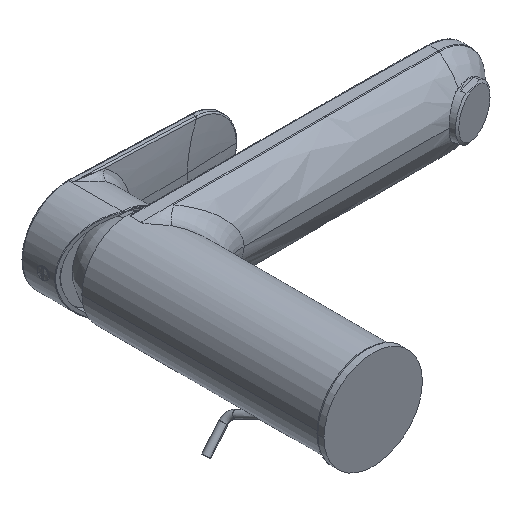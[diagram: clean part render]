
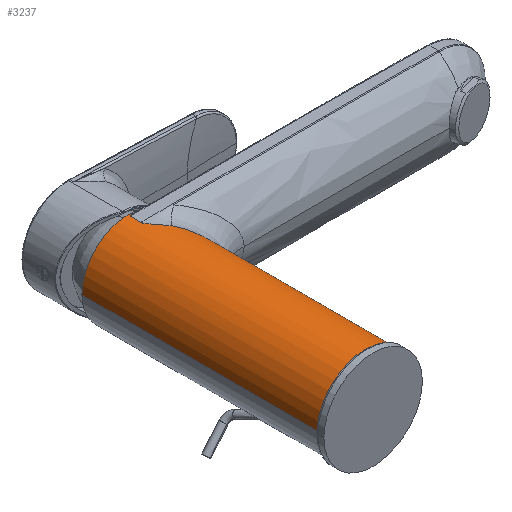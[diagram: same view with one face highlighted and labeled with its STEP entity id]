
A CAD part, isometric view. The second image highlights one B-rep face of the part: STEP entity #3237.
In plain terms, the highlighted cylindrical face has radius 22.5 mm (diameter 45 mm), a partial arc.
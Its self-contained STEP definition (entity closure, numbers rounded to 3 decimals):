
#49=DIRECTION('',(0.,1.,0.));
#50=VECTOR('',#49,81.431);
#51=CARTESIAN_POINT('',(22.5,0.,0.));
#52=LINE('',#51,#50);
#111=DIRECTION('',(0.,-1.,0.));
#112=VECTOR('',#111,115.54);
#113=CARTESIAN_POINT('',(-22.5,115.54,0.));
#114=LINE('',#113,#112);
#120=CARTESIAN_POINT('',(0.,0.,0.));
#121=DIRECTION('',(0.,-1.,0.));
#122=DIRECTION('',(1.,0.,0.));
#123=AXIS2_PLACEMENT_3D('',#120,#121,#122);
#125=CARTESIAN_POINT('',(2.817,115.54,22.323));
#126=CARTESIAN_POINT('',(2.698,115.504,22.338));
#127=CARTESIAN_POINT('',(2.47,115.433,22.365));
#128=CARTESIAN_POINT('',(2.155,115.333,22.397));
#129=CARTESIAN_POINT('',(1.865,115.24,22.423));
#130=CARTESIAN_POINT('',(1.598,115.152,22.444));
#131=CARTESIAN_POINT('',(1.352,115.07,22.46));
#132=CARTESIAN_POINT('',(1.125,114.993,22.472));
#133=CARTESIAN_POINT('',(0.915,114.921,22.482));
#134=CARTESIAN_POINT('',(0.721,114.854,22.489));
#135=CARTESIAN_POINT('',(0.546,114.788,22.494));
#136=CARTESIAN_POINT('',(0.381,114.738,22.497));
#137=CARTESIAN_POINT('',(0.224,114.698,22.499));
#138=CARTESIAN_POINT('',(0.1,114.626,22.5));
#139=CARTESIAN_POINT('',(0.031,114.576,22.5));
#140=CARTESIAN_POINT('',(0.,114.548,22.5));
#142=DIRECTION('',(0.,-1.,0.));
#143=VECTOR('',#142,5.273);
#144=CARTESIAN_POINT('',(0.,114.548,22.5));
#145=LINE('',#144,#143);
#146=CARTESIAN_POINT('',(2.911,105.135,22.311));
#147=CARTESIAN_POINT('',(3.5,104.635,22.234));
#148=CARTESIAN_POINT('',(4.616,103.691,22.041));
#149=CARTESIAN_POINT('',(6.116,102.501,21.669));
#150=CARTESIAN_POINT('',(6.972,101.754,21.397));
#151=CARTESIAN_POINT('',(7.367,101.401,21.26));
#153=CARTESIAN_POINT('',(7.367,101.401,21.26));
#154=CARTESIAN_POINT('',(7.5,101.276,21.213));
#155=CARTESIAN_POINT('',(7.767,101.025,21.119));
#156=CARTESIAN_POINT('',(8.297,100.519,20.917));
#157=CARTESIAN_POINT('',(9.209,99.632,20.543));
#158=CARTESIAN_POINT('',(10.471,98.349,19.938));
#159=CARTESIAN_POINT('',(11.911,96.764,19.112));
#160=CARTESIAN_POINT('',(13.263,95.096,18.2));
#161=CARTESIAN_POINT('',(14.543,93.412,17.194));
#162=CARTESIAN_POINT('',(15.756,91.746,16.091));
#163=CARTESIAN_POINT('',(16.898,90.12,14.888));
#164=CARTESIAN_POINT('',(17.96,88.569,13.588));
#165=CARTESIAN_POINT('',(18.772,87.348,12.427));
#166=CARTESIAN_POINT('',(19.378,86.414,11.446));
#167=CARTESIAN_POINT('',(19.938,85.532,10.454));
#168=CARTESIAN_POINT('',(20.581,84.497,9.151));
#169=CARTESIAN_POINT('',(21.253,83.409,7.462));
#170=CARTESIAN_POINT('',(21.798,82.533,5.679));
#171=CARTESIAN_POINT('',(22.2,81.897,3.824));
#172=CARTESIAN_POINT('',(22.446,81.515,1.921));
#173=CARTESIAN_POINT('',(22.499,81.432,0.64));
#174=CARTESIAN_POINT('',(22.5,81.431,0.));
#176=CARTESIAN_POINT('',(0.,115.54,0.));
#177=DIRECTION('',(0.,-1.,0.));
#178=DIRECTION('',(0.125,0.,0.992));
#179=AXIS2_PLACEMENT_3D('',#176,#177,#178);
#2192=CARTESIAN_POINT('',(22.5,81.431,0.));
#2209=CARTESIAN_POINT('',(2.911,105.135,22.311));
#2210=CARTESIAN_POINT('',(2.722,105.301,22.336));
#2211=CARTESIAN_POINT('',(2.363,105.623,22.378));
#2212=CARTESIAN_POINT('',(1.88,106.079,22.423));
#2213=CARTESIAN_POINT('',(1.451,106.511,22.454));
#2214=CARTESIAN_POINT('',(1.077,106.922,22.475));
#2215=CARTESIAN_POINT('',(0.754,107.314,22.488));
#2216=CARTESIAN_POINT('',(0.485,107.688,22.495));
#2217=CARTESIAN_POINT('',(0.271,108.046,22.499));
#2218=CARTESIAN_POINT('',(0.115,108.387,22.5));
#2219=CARTESIAN_POINT('',(0.021,108.709,22.5));
#2220=CARTESIAN_POINT('',(0.,108.906,22.5));
#2221=CARTESIAN_POINT('',(0.,109.,22.5));
#2223=CARTESIAN_POINT('',(0.,109.,22.5));
#2224=CARTESIAN_POINT('',(-0.003,109.03,
22.5));
#2225=CARTESIAN_POINT('',(-0.004,109.091,
22.5));
#2226=CARTESIAN_POINT('',(-0.01,109.183,
22.5));
#2227=CARTESIAN_POINT('',(-0.001,109.244,
22.5));
#2228=CARTESIAN_POINT('',(0.,109.276,
22.5));
#2882=VERTEX_POINT('',#2192);
#2883=VERTEX_POINT('',#153);
#2895=CARTESIAN_POINT('',(-22.5,115.54,0.));
#2896=VERTEX_POINT('',#2895);
#2897=CARTESIAN_POINT('',(2.817,115.54,22.323));
#2898=VERTEX_POINT('',#2897);
#2899=VERTEX_POINT('',#140);
#2900=CARTESIAN_POINT('',(0.,109.276,
22.5));
#2901=VERTEX_POINT('',#2900);
#2902=VERTEX_POINT('',#2223);
#2903=VERTEX_POINT('',#2209);
#2987=CARTESIAN_POINT('',(-22.5,0.,0.));
#2988=CARTESIAN_POINT('',(22.5,0.,0.));
#2989=VERTEX_POINT('',#2987);
#2990=VERTEX_POINT('',#2988);
#3213=CARTESIAN_POINT('',(0.,-4.5,0.));
#3214=DIRECTION('',(0.,-1.,0.));
#3215=DIRECTION('',(1.,0.,0.));
#3216=AXIS2_PLACEMENT_3D('',#3213,#3214,#3215);
#3217=CYLINDRICAL_SURFACE('',#3216,22.5);
#3218=ORIENTED_EDGE('',*,*,#3150,.T.);
#3219=ORIENTED_EDGE('',*,*,#3201,.F.);
#3221=ORIENTED_EDGE('',*,*,#3220,.F.);
#3223=ORIENTED_EDGE('',*,*,#3222,.T.);
#3225=ORIENTED_EDGE('',*,*,#3224,.T.);
#3227=ORIENTED_EDGE('',*,*,#3226,.F.);
#3229=ORIENTED_EDGE('',*,*,#3228,.F.);
#3231=ORIENTED_EDGE('',*,*,#3230,.T.);
#3233=ORIENTED_EDGE('',*,*,#3232,.T.);
#3234=ORIENTED_EDGE('',*,*,#3185,.F.);
#3235=EDGE_LOOP('',(#3218,#3219,#3221,#3223,#3225,#3227,#3229,#3231,#3233,
#3234));
#3236=FACE_OUTER_BOUND('',#3235,.F.);
#3237=ADVANCED_FACE('',(#3236),#3217,.T.);
#124=CIRCLE('',#123,22.5);
#141=B_SPLINE_CURVE_WITH_KNOTS('',3,(#125,#126,#127,#128,#129,#130,#131,#132,
#133,#134,#135,#136,#137,#138,#139,#140),.UNSPECIFIED.,.F.,.F.,(4,1,1,1,1,1,1,1,
1,1,1,1,1,4),(0.,0.077,0.154,0.231,
0.308,0.385,0.462,0.538,
0.615,0.692,0.769,0.846,
0.923,1.),.UNSPECIFIED.);
#152=B_SPLINE_CURVE_WITH_KNOTS('',3,(#146,#147,#148,#149,#150,#151),
.UNSPECIFIED.,.F.,.F.,(4,1,1,4),(0.,0.333,0.667,1.),
.UNSPECIFIED.);
#175=B_SPLINE_CURVE_WITH_KNOTS('',3,(#153,#154,#155,#156,#157,#158,#159,#160,
#161,#162,#163,#164,#165,#166,#167,#168,#169,#170,#171,#172,#173,#174),
.UNSPECIFIED.,.F.,.F.,(4,1,1,1,1,1,1,1,1,1,1,1,1,1,1,1,1,1,1,4),(0.,
0.019,0.037,0.075,0.148,
0.221,0.292,0.362,0.43,
0.497,0.562,0.626,0.658,
0.688,0.746,0.8,0.852,
0.902,0.951,1.),.UNSPECIFIED.);
#180=CIRCLE('',#179,22.5);
#2222=B_SPLINE_CURVE_WITH_KNOTS('',3,(#2209,#2210,#2211,#2212,#2213,#2214,#2215,
#2216,#2217,#2218,#2219,#2220,#2221),.UNSPECIFIED.,.F.,.F.,(4,1,1,1,1,1,1,1,1,1,
4),(0.,0.1,0.2,0.3,0.4,0.5,0.6,0.7,0.8,0.9,1.),
.UNSPECIFIED.);
#2229=B_SPLINE_CURVE_WITH_KNOTS('',3,(#2223,#2224,#2225,#2226,#2227,#2228),
.UNSPECIFIED.,.F.,.F.,(4,1,1,4),(0.,0.333,0.667,1.),
.UNSPECIFIED.);
#3150=EDGE_CURVE('',#2990,#2989,#124,.T.);
#3185=EDGE_CURVE('',#2990,#2882,#52,.T.);
#3201=EDGE_CURVE('',#2896,#2989,#114,.T.);
#3220=EDGE_CURVE('',#2898,#2896,#180,.T.);
#3222=EDGE_CURVE('',#2898,#2899,#141,.T.);
#3224=EDGE_CURVE('',#2899,#2901,#145,.T.);
#3226=EDGE_CURVE('',#2902,#2901,#2229,.T.);
#3228=EDGE_CURVE('',#2903,#2902,#2222,.T.);
#3230=EDGE_CURVE('',#2903,#2883,#152,.T.);
#3232=EDGE_CURVE('',#2883,#2882,#175,.T.);
